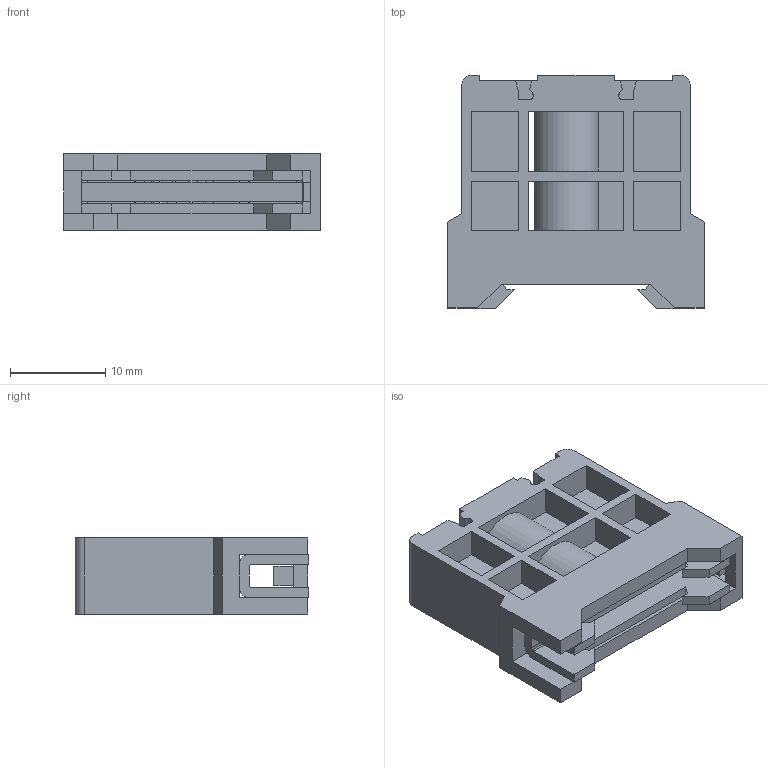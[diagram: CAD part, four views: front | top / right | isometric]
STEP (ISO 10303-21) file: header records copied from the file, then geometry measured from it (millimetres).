
FILE_DESCRIPTION((''),'2;1');
FILE_NAME('1492-EAJ15_SW0001','2011-07-01T',('mguelmi'),('Rockwell Automation'),'PRO/ENGINEER BY PARAMETRIC TECHNOLOGY CORPORATION, 2010140','PRO/ENGINEER BY PARAMETRIC TECHNOLOGY CORPORATION, 2010140','');
FILE_SCHEMA(('CONFIG_CONTROL_DESIGN'));
Length unit declared in the file: inch
Products named in the file (1): 1492-EAJ15_SW0001
Bounding box: 27 x 24.6 x 8 mm (x, y, z)
Surface area: 3382.3 mm2 (no closed solid volume)
Topology: 0 solids, 4 shells, 160 faces, 537 edges, 376 vertices
Faces by surface type: plane 146, cylinder 14
Entity records: 5865 total; most frequent: CARTESIAN_POINT 1117, ORIENTED_EDGE 958, DIRECTION 927, EDGE_CURVE 537, VECTOR 463, LINE 463, VERTEX_POINT 376, AXIS2_PLACEMENT_3D 232
